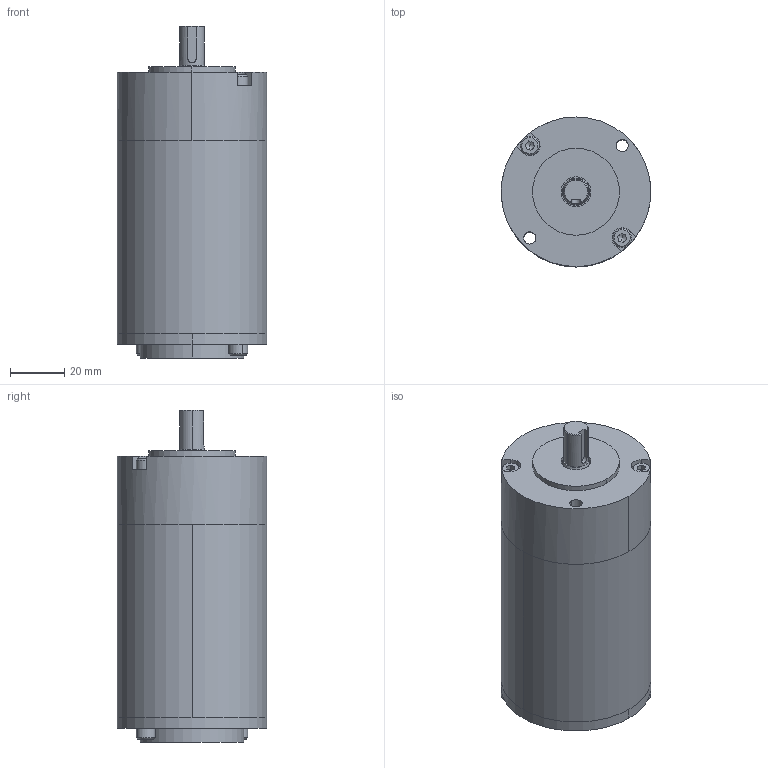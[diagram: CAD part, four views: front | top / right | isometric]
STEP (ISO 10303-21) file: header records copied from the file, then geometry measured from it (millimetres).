
FILE_DESCRIPTION (( 'STEP AP214' ), '1' );
FILE_NAME ('PC100-0.8 MS.STEP', '2013-11-21T09:44:47', ( '' ), ( '' ), 'SwSTEP 2.0', 'SolidWorks 2013', '' );
FILE_SCHEMA (( 'AUTOMOTIVE_DESIGN' ));
Length unit declared in the file: millimetre
Products named in the file (1): PC100-0.8 MS
Bounding box: 55 x 55 x 122 mm (x, y, z)
Surface area: 30503.5 mm2 (no closed solid volume)
Topology: 0 solids, 9 shells, 130 faces, 402 edges, 286 vertices
Faces by surface type: plane 62, cylinder 42, cone 21, bspline 5
Entity records: 6427 total; most frequent: CARTESIAN_POINT 1353, DIRECTION 760, ORIENTED_EDGE 684, EDGE_CURVE 394, AXIS2_PLACEMENT_3D 287, VERTEX_POINT 286, LINE 186, VECTOR 186
